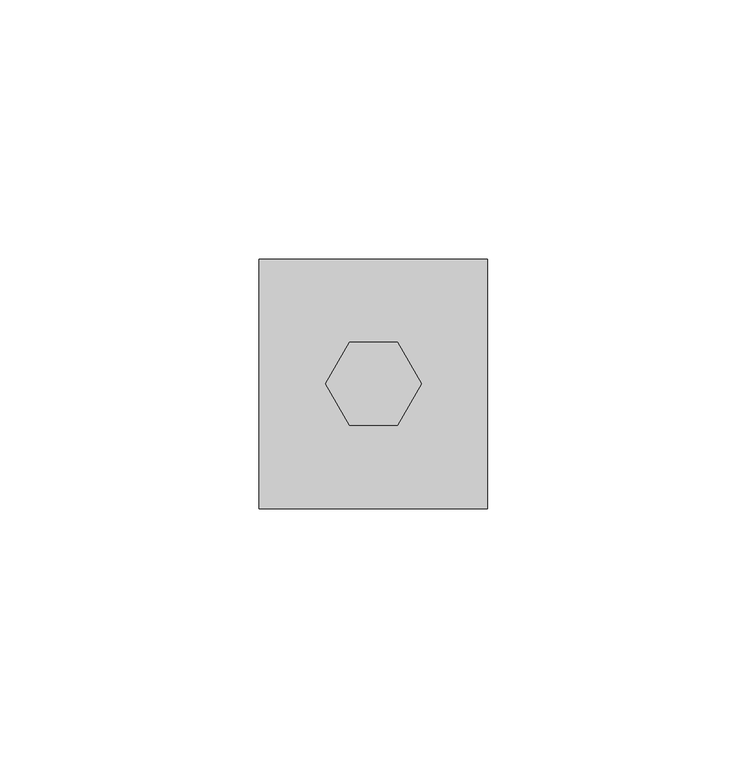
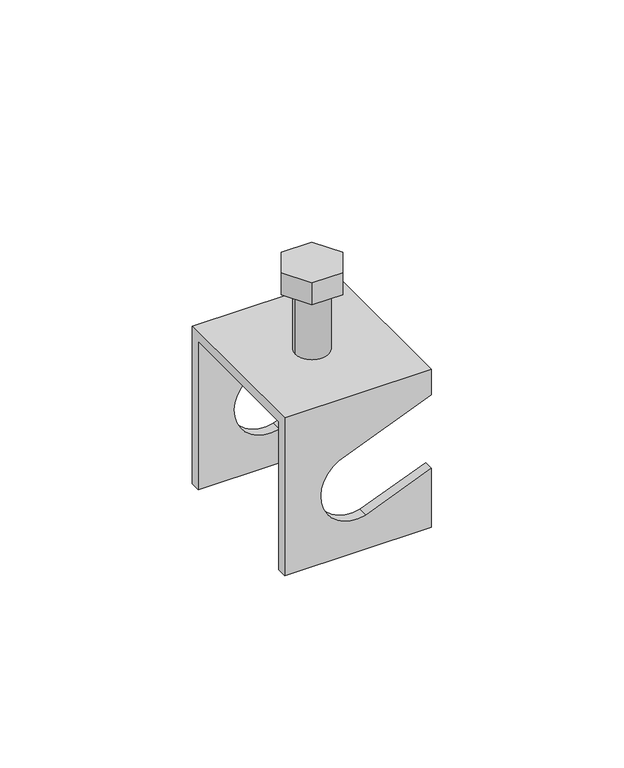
"""IFC4 building model written with IfcOpenShell, lengths in millimetres: proxy geometry, КНС_ЗажимАрматурный_DKC : ND2003_Гальванически оцинкованнная сталь."""

from ifc_helpers import new_model, si_unit, frame, origin, place, context, project, spatial, polyline, circle_curve, outline, extrude, source, transform, mapped, element, save
from ifc_brep_helpers import plane_surface, cylinder_surface, revolved_surface, advanced_brep


def security_devices_9f6d2140(model_context):
    return source(origin(), model_context, "Body", "SolidModel", [
        extrude(outline(polyline([(-9.2376043, 0.0), (-4.6188022, 8.0), (4.6188022, 8.0), (9.2376043, 0.0), (4.6188022, -8.0), (-4.6188022, -8.0), (-9.2376043, 0.0)])), frame((0.0, 0.0, 17.422542), z_axis=(0.0, 0.0, 1.0), x_axis=(1.0, 0.0, 0.0)), (0.0, 0.0, 1.0), 7.3626428),
        advanced_brep(
        [(-5.0, 0.0, 9.0), (5.0, 0.0, 9.0), (5.0, 0.0, 49.0433713), (-5.0, 0.0, 49.0433713), (-9.2376043, 0.0, 56.0), (-4.6188022, -8.0, 56.0), (4.6188022, -8.0, 56.0), (9.2376043, 0.0, 56.0), (4.6188022, 8.0, 56.0), (-4.6188022, 8.0, 56.0), (-9.2376043, 0.0, 49.0433713), (-4.6188022, 8.0, 49.0433713), (4.6188022, 8.0, 49.0433713), (9.2376043, 0.0, 49.0433713), (4.6188022, -8.0, 49.0433713), (-4.6188022, -8.0, 49.0433713)],
        [
            (0, 1, circle_curve(frame((0.0, 0.0, 9.0), z_axis=(0.0, 0.0, -1.0), x_axis=(1.0, 0.0, 0.0)), 5.0)),
            (1, 0, circle_curve(frame((0.0, 0.0, 9.0), z_axis=(0.0, 0.0, -1.0), x_axis=(1.0, 0.0, 0.0)), 5.0)),
            (1, 2),
            (2, 3, circle_curve(frame((0.0, 0.0, 49.0433713), z_axis=(0.0, 0.0, -1.0), x_axis=(1.0, 0.0, 0.0)), 5.0)),
            (3, 0),
            (3, 2, circle_curve(frame((0.0, 0.0, 49.0433713), z_axis=(0.0, 0.0, -1.0), x_axis=(1.0, 0.0, 0.0)), 5.0)),
            (4, 5),
            (5, 6),
            (6, 7),
            (7, 8),
            (8, 9),
            (9, 4),
            (10, 11),
            (11, 12),
            (12, 13),
            (13, 14),
            (14, 15),
            (15, 10),
            (4, 10),
            (15, 5),
            (14, 6),
            (13, 7),
            (12, 8),
            (11, 9),
        ],
        [
            plane_surface(frame((5.0, 0.0, 9.0), z_axis=(0.0, 0.0, -1.0), x_axis=(0.0, -1.0, 0.0))),
            cylinder_surface(frame((0.0, 0.0, 9.0), z_axis=(0.0, 0.0, 1.0), x_axis=(1.0, 0.0, 0.0)), 5.0),
            plane_surface(frame((-9.2376043, 0.0, 56.0), z_axis=(0.0, 0.0, 1.0), x_axis=(0.4999999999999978, -0.8660254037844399, 0.0))),
            plane_surface(frame((-9.2376043, 0.0, 49.0433713), z_axis=(0.0, 0.0, -1.0), x_axis=(-0.4999999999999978, 0.8660254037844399, 0.0))),
            plane_surface(frame((-9.2376043, 0.0, 56.0), z_axis=(-0.8660254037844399, -0.4999999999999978, 0.0), x_axis=(0.0, 0.0, -1.0))),
            plane_surface(frame((-4.6188022, -8.0, 56.0), z_axis=(0.0, -1.0, 0.0), x_axis=(0.0, 0.0, -1.0))),
            plane_surface(frame((4.6188022, -8.0, 56.0), z_axis=(0.8660254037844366, -0.5000000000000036, 0.0), x_axis=(0.0, 0.0, -1.0))),
            plane_surface(frame((9.2376043, 0.0, 56.0), z_axis=(0.8660254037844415, 0.4999999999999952, 0.0), x_axis=(0.0, 0.0, -1.0))),
            plane_surface(frame((4.6188022, 8.0, 56.0), z_axis=(0.0, 1.0, 0.0), x_axis=(0.0, 0.0, -1.0))),
            plane_surface(frame((-4.6188022, 8.0, 56.0), z_axis=(-0.866025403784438, 0.5000000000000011, 0.0), x_axis=(0.0, 0.0, -1.0))),
        ],
        [
            (0, [[1, 2]]),
            (1, [[-2, 3, 4, 5]]),
            (1, [[-1, -5, 6, -3]]),
            (2, [[7, 8, 9, 10, 11, 12]]),
            (3, [[13, 14, 15, 16, 17, 18], [-4, -6]]),
            (4, [[-7, 19, -18, 20]]),
            (5, [[-8, -20, -17, 21]]),
            (6, [[-9, -21, -16, 22]]),
            (7, [[-10, -22, -15, 23]]),
            (8, [[-11, -23, -14, 24]]),
            (9, [[-12, -24, -13, -19]]),
        ],
    ),
        advanced_brep(
        [(22.0, 24.0, 28.9400841), (22.0, -24.0, 28.9400841), (22.0, -24.0, 20.9400841), (22.0, -21.0, 20.9400841), (22.0, -21.0, 25.9400841), (22.0, 21.0, 25.9400841), (22.0, 21.0, 20.9400841), (22.0, 24.0, 20.9400841), (22.0, -24.0, -21.0599159), (22.0, -21.0, -21.0599159), (22.0, -21.0, -2.4565907), (22.0, -24.0, -2.4565907), (22.0, 21.0, -21.0599159), (22.0, 24.0, -21.0599159), (22.0, 24.0, -2.4565907), (22.0, 21.0, -2.4565907), (-22.0, 24.0, -21.0599159), (-22.0, 21.0, -21.0599159), (-22.0, 21.0, 25.9400841), (-22.0, -21.0, 25.9400841), (-22.0, -21.0, -21.0599159), (-22.0, -24.0, -21.0599159), (-22.0, -24.0, 28.9400841), (-22.0, 24.0, 28.9400841), (-5.8155156, 24.0, 9.7018863), (2.3108323, 24.0, -10.4115308), (2.3108323, -24.0, -10.4115308), (-5.8155156, -24.0, 9.7018863), (-5.8155156, -21.0, 9.7018863), (2.3108323, -21.0, -10.4115308), (2.3108323, 21.0, -10.4115308), (-5.8155156, 21.0, 9.7018863)],
        [
            (0, 1),
            (1, 2),
            (2, 3),
            (3, 4),
            (4, 5),
            (5, 6),
            (6, 7),
            (7, 0),
            (8, 9),
            (9, 10),
            (10, 11),
            (11, 8),
            (12, 13),
            (13, 14),
            (14, 15),
            (15, 12),
            (16, 17),
            (17, 18),
            (18, 19),
            (19, 20),
            (20, 21),
            (21, 22),
            (22, 23),
            (23, 16),
            (23, 0),
            (7, 24),
            (24, 25, circle_curve(frame((-0.3091751, 24.0, 0.2282549), z_axis=(0.0, -1.0, 0.0), x_axis=(1.0, 0.0, 0.0)), 10.9576219)),
            (25, 14),
            (13, 16),
            (22, 1),
            (21, 8),
            (11, 26),
            (26, 27, circle_curve(frame((-0.3091751, -24.0, 0.2282549), z_axis=(0.0, 1.0, 0.0), x_axis=(1.0, 0.0, 0.0)), 10.9576219)),
            (27, 2),
            (20, 9),
            (19, 4),
            (3, 28),
            (28, 29, circle_curve(frame((-0.3091751, -21.0, 0.2282549), z_axis=(0.0, -1.0, 0.0), x_axis=(1.0, 0.0, 0.0)), 10.9576219)),
            (29, 10),
            (18, 5),
            (17, 12),
            (15, 30),
            (30, 31, circle_curve(frame((-0.3091751, 21.0, 0.2282549), z_axis=(0.0, 1.0, 0.0), x_axis=(1.0, 0.0, 0.0)), 10.9576219)),
            (31, 6),
            (28, 27),
            (26, 29),
            (24, 31),
            (30, 25),
        ],
        [
            plane_surface(frame((22.0, 24.0, -21.0599159), z_axis=(1.0, 0.0, 0.0), x_axis=(0.0, 0.0, 1.0))),
            plane_surface(frame((-22.0, 24.0, -21.0599159), z_axis=(-1.0, 0.0, 0.0), x_axis=(0.0, 0.0, -1.0))),
            plane_surface(frame((22.0, 24.0, -21.0599159), z_axis=(0.0, 1.0, 0.0), x_axis=(-1.0, 0.0, 0.0))),
            plane_surface(frame((22.0, 24.0, 28.9400841), z_axis=(0.0, 0.0, 1.0), x_axis=(-1.0, 0.0, 0.0))),
            plane_surface(frame((22.0, -24.0, 28.9400841), z_axis=(0.0, -1.0, 0.0), x_axis=(-1.0, 0.0, 0.0))),
            plane_surface(frame((22.0, -24.0, -21.0599159), z_axis=(0.0, 0.0, -1.0), x_axis=(-1.0, 0.0, 0.0))),
            plane_surface(frame((22.0, -21.0, -21.0599159), z_axis=(0.0, 1.0, 0.0), x_axis=(-1.0, 0.0, 0.0))),
            plane_surface(frame((22.0, -21.0, 25.9400841), z_axis=(0.0, 0.0, -1.0), x_axis=(-1.0, 0.0, 0.0))),
            plane_surface(frame((22.0, 21.0, 25.9400841), z_axis=(0.0, -1.0, 0.0), x_axis=(-1.0, 0.0, 0.0))),
            plane_surface(frame((22.0, 21.0, -21.0599159), z_axis=(0.0, 0.0, -1.0), x_axis=(-1.0, 0.0, 0.0))),
            revolved_surface(polyline([(10.6484468, -24.0, 0.2282549), (10.6484468, -21.0, 0.2282549)]), (-0.3091751, 24.0, 0.2282549), (0.0, -1.0, 0.0)),
            revolved_surface(polyline([(10.6484468, 21.0, 0.2282549), (10.6484468, 24.0, 0.2282549)]), (-0.3091751, 24.0, 0.2282549), (0.0, -1.0, 0.0)),
            plane_surface(frame((2.3108323, -24.0, -10.4115308), z_axis=(-0.37460659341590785, 0.0, 0.9271838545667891), x_axis=(0.0, 1.0, 0.0))),
            plane_surface(frame((22.0, -24.0, 20.9400841), z_axis=(0.37460659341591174, 0.0, -0.9271838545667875), x_axis=(0.0, 1.0, 0.0))),
        ],
        [
            (0, [[1, 2, 3, 4, 5, 6, 7, 8]]),
            (0, [[9, 10, 11, 12]]),
            (0, [[13, 14, 15, 16]]),
            (1, [[17, 18, 19, 20, 21, 22, 23, 24]]),
            (2, [[-24, 25, -8, 26, 27, 28, -14, 29]]),
            (3, [[-1, -25, -23, 30]]),
            (4, [[-22, 31, -12, 32, 33, 34, -2, -30]]),
            (5, [[-9, -31, -21, 35]]),
            (6, [[-20, 36, -4, 37, 38, 39, -10, -35]]),
            (7, [[-5, -36, -19, 40]]),
            (8, [[-18, 41, -16, 42, 43, 44, -6, -40]]),
            (9, [[-13, -41, -17, -29]]),
            (10, [[45, -33, 46, -38]]),
            (11, [[47, -43, 48, -27]]),
            (12, [[-46, -32, -11, -39]]),
            (12, [[-48, -42, -15, -28]]),
            (13, [[-45, -37, -3, -34]]),
            (13, [[-47, -26, -7, -44]]),
        ],
    ),
    ])


if __name__ == "__main__":
    model = new_model("IFC4")
    model_context = context("Model", 3, world=origin())
    ifc_project = project(units=[si_unit("LENGTHUNIT", "METRE", prefix="MILLI")], contexts=[model_context])
    site = spatial("IfcSite", under=ifc_project)
    building = spatial("IfcBuilding", under=site)
    placement = place(None, origin())
    security_devices_shape = security_devices_9f6d2140(model_context)
    element("IfcBuildingElementProxy", 1, Name="КНС_ЗажимАрматурный_DKC : ND2003_Гальванически оцинкованнная сталь", ObjectType="КНС_ЗажимАрматурный_DKC : ND2003_Гальванически оцинкованнная сталь", at=placement, inside=building, context=model_context, shape_type="MappedRepresentation", body=[
        mapped(security_devices_shape, transform((0.0, 0.0, 0.0), x_axis=(1.0, 0.0, 0.0), y_axis=(0.0, 1.0, 0.0), z_axis=(0.0, 0.0, 1.0))),
    ])
    save(model, "model.ifc")
